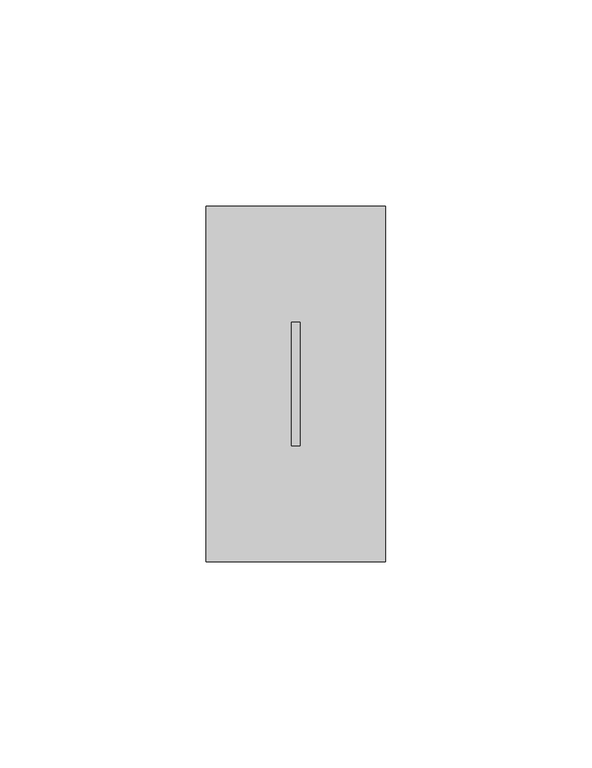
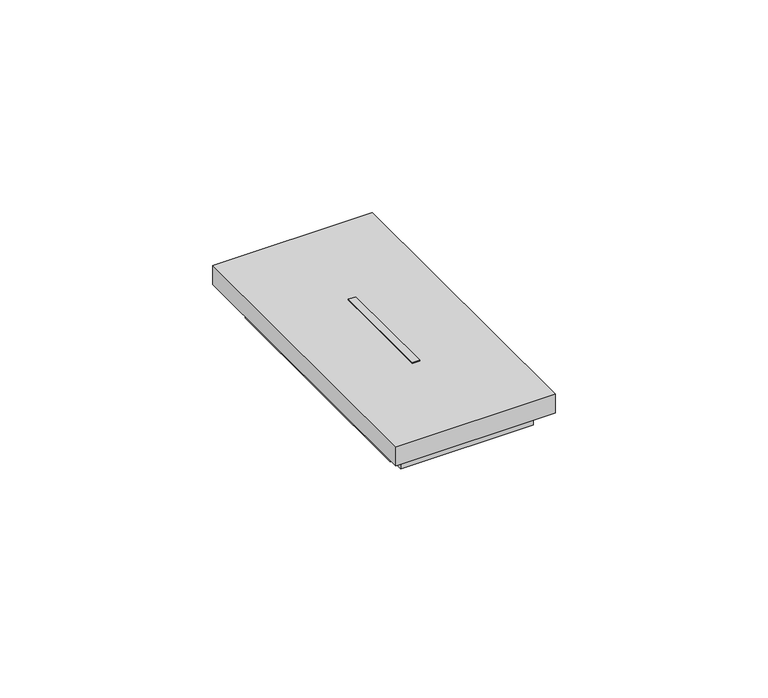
"""IFC4 building model written with IfcOpenShell, lengths in millimetres: proxy geometry, BT_LNsmart-ComandiScenariWireless : Comandi Wireless - Art. K4570CW - 2M - Cover Bianco."""

from ifc_helpers import new_model, si_unit, frame, origin, origin_with_axes, place, context, project, spatial, polyline, outline, extrude, source, transform, mapped, element, save


def electrical_fixtures_636c4275(model_context):
    return source(origin(), model_context, "Body", "SweptSolid", [
        extrude(outline(polyline([(-18.0, 39.0), (18.0, 39.0), (18.0, -39.0), (-18.0, -39.0), (-18.0, 39.0)])), frame((0.0, 0.0, 1.0), z_axis=(0.0, 0.0, 1.0), x_axis=(1.0, 0.0, 0.0)), (0.0, 0.0, 1.0), 4.5),
        extrude(outline(polyline([(-18.0, 34.0), (18.0, 34.0), (18.0, -34.0), (-18.0, -34.0), (-18.0, 34.0)])), origin_with_axes(), (0.0, 0.0, 1.0), 1.0),
        extrude(outline(polyline([(-1.0, 15.0), (1.0, 15.0), (1.0, -15.0), (-1.0, -15.0), (-1.0, 15.0)])), frame((0.0, 0.0, 5.5), z_axis=(0.0, 0.0, 1.0), x_axis=(1.0, 0.0, 0.0)), (0.0, 0.0, 1.0), 5.5),
        extrude(outline(polyline([(-21.7, -43.0), (-21.7, 43.0), (21.7, 43.0), (21.7, -43.0), (-21.7, -43.0)]), holes=[polyline([(-1.0, 15.0), (-1.0, -15.0), (1.0, -15.0), (1.0, 15.0), (-1.0, 15.0)])]), frame((0.0, 0.0, 5.5), z_axis=(0.0, 0.0, 1.0), x_axis=(1.0, 0.0, 0.0)), (0.0, 0.0, 1.0), 5.5),
    ])


if __name__ == "__main__":
    model = new_model("IFC4")
    model_context = context("Model", 3, world=origin())
    ifc_project = project(units=[si_unit("LENGTHUNIT", "METRE", prefix="MILLI")], contexts=[model_context])
    site = spatial("IfcSite", under=ifc_project)
    building = spatial("IfcBuilding", under=site)
    placement = place(None, origin())
    electrical_fixtures_shape = electrical_fixtures_636c4275(model_context)
    element("IfcBuildingElementProxy", 1, Name="BT_LNsmart-ComandiScenariWireless : Comandi Wireless - Art. K4570CW - 2M - Cover Bianco", ObjectType="BT_LNsmart-ComandiScenariWireless : Comandi Wireless - Art. K4570CW - 2M - Cover Bianco", at=placement, inside=building, context=model_context, shape_type="MappedRepresentation", body=[
        mapped(electrical_fixtures_shape, transform((0.0, 0.0, 0.0), x_axis=(1.0, 0.0, 0.0), y_axis=(0.0, 1.0, 0.0), z_axis=(0.0, 0.0, 1.0))),
    ])
    save(model, "model.ifc")
